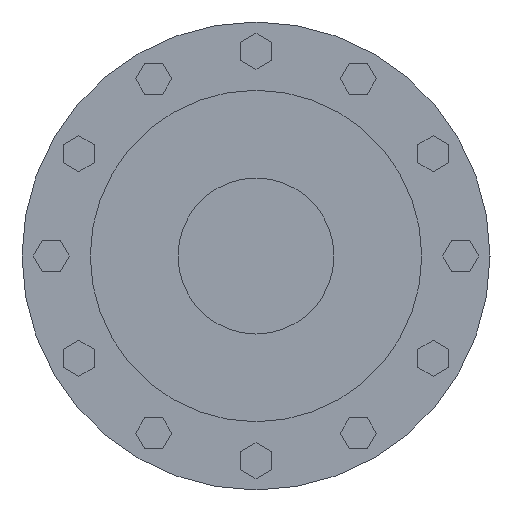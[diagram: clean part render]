
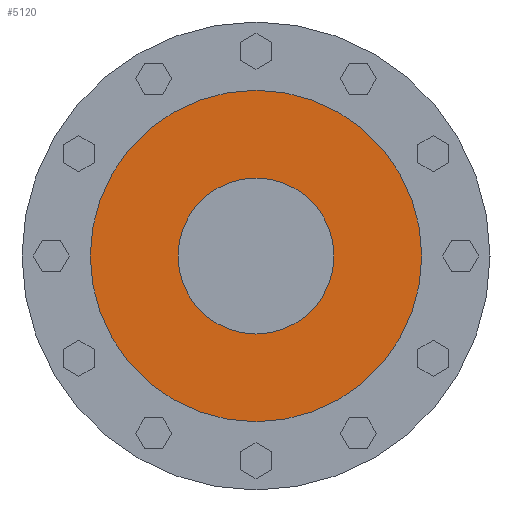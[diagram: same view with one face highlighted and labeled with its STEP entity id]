
A CAD part, left-side view. The second image highlights one B-rep face of the part: STEP entity #5120.
In plain terms, the highlighted planar face has unit normal (-1, 0, 0).
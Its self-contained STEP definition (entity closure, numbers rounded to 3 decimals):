
#6=CARTESIAN_POINT('',(-332.,0.,0.));
#7=DIRECTION('',(1.,0.,0.));
#8=DIRECTION('',(0.,1.,0.));
#9=AXIS2_PLACEMENT_3D('',#6,#7,#8);
#1097=CARTESIAN_POINT('',(-332.,0.,0.));
#1098=DIRECTION('',(-1.,0.,0.));
#1099=DIRECTION('',(0.,1.,0.));
#1100=AXIS2_PLACEMENT_3D('',#1097,#1098,#1099);
#1102=CARTESIAN_POINT('',(-332.,0.,0.));
#1103=DIRECTION('',(1.,0.,0.));
#1104=DIRECTION('',(0.,1.,0.));
#1105=AXIS2_PLACEMENT_3D('',#1102,#1103,#1104);
#1116=CARTESIAN_POINT('',(-332.,0.,0.));
#1117=DIRECTION('',(-1.,0.,0.));
#1118=DIRECTION('',(0.,1.,0.));
#1119=AXIS2_PLACEMENT_3D('',#1116,#1117,#1118);
#3200=CARTESIAN_POINT('',(-332.,85.,0.));
#3202=VERTEX_POINT('',#3200);
#3214=CARTESIAN_POINT('',(-332.,-85.,0.));
#3216=VERTEX_POINT('',#3214);
#3237=CARTESIAN_POINT('',(-332.,40.,0.));
#3238=VERTEX_POINT('',#3237);
#3239=CARTESIAN_POINT('',(-332.,-40.,0.));
#3240=VERTEX_POINT('',#3239);
#5106=CARTESIAN_POINT('',(-332.,0.,0.));
#5107=DIRECTION('',(1.,0.,0.));
#5108=DIRECTION('',(0.,-1.,0.));
#5109=AXIS2_PLACEMENT_3D('',#5106,#5107,#5108);
#5110=PLANE('',#5109);
#5111=ORIENTED_EDGE('',*,*,#5099,.F.);
#5112=ORIENTED_EDGE('',*,*,#5088,.T.);
#5113=EDGE_LOOP('',(#5111,#5112));
#5114=FACE_OUTER_BOUND('',#5113,.F.);
#5115=ORIENTED_EDGE('',*,*,#4230,.F.);
#5117=ORIENTED_EDGE('',*,*,#5116,.T.);
#5118=EDGE_LOOP('',(#5115,#5117));
#5119=FACE_BOUND('',#5118,.F.);
#5120=ADVANCED_FACE('',(#5114,#5119),#5110,.F.);
#10=CIRCLE('',#9,40.);
#1101=CIRCLE('',#1100,85.);
#1106=CIRCLE('',#1105,85.);
#1120=CIRCLE('',#1119,40.);
#4230=EDGE_CURVE('',#3238,#3240,#10,.T.);
#5088=EDGE_CURVE('',#3202,#3216,#1106,.T.);
#5099=EDGE_CURVE('',#3202,#3216,#1101,.T.);
#5116=EDGE_CURVE('',#3238,#3240,#1120,.T.);
